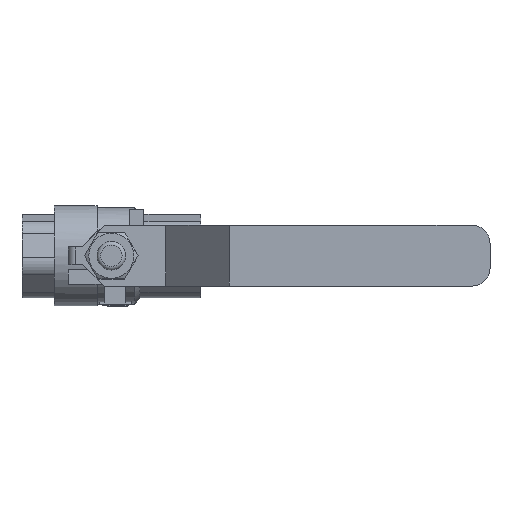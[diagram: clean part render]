
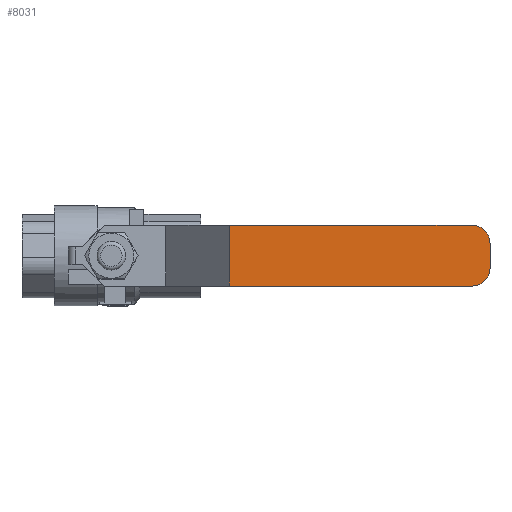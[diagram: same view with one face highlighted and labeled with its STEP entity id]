
A CAD part, top view. The second image highlights one B-rep face of the part: STEP entity #8031.
In plain terms, the highlighted planar face has unit normal (0, 0, 1).
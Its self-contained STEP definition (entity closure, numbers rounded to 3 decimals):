
#8031=ADVANCED_FACE('',(#14604),#14606,.T.);
#14604=FACE_BOUND('',#14605,.T.);
#14605=EDGE_LOOP('',(#20049,#20050,#20051,#20052,#20053,#20054));
#14606=PLANE('',#14607);
#14607=AXIS2_PLACEMENT_3D('',#14608,#14609,#14610);
#14608=CARTESIAN_POINT('',(2731.322,2563.291,31.498));
#14609=DIRECTION('',(0.,0.,1.));
#14610=DIRECTION('',(-1.,0.,0.));
#20049=ORIENTED_EDGE('',*,*,#22861,.F.);
#20050=ORIENTED_EDGE('',*,*,#22868,.T.);
#20051=ORIENTED_EDGE('',*,*,#22869,.T.);
#20052=ORIENTED_EDGE('',*,*,#22870,.F.);
#20053=ORIENTED_EDGE('',*,*,#22871,.F.);
#20054=ORIENTED_EDGE('',*,*,#22865,.T.);
#22861=EDGE_CURVE('',#27269,#27270,#27271,.T.);
#22865=EDGE_CURVE('',#27277,#27270,#27278,.T.);
#22868=EDGE_CURVE('',#27269,#27282,#27283,.T.);
#22869=EDGE_CURVE('',#27282,#27284,#27285,.T.);
#22870=EDGE_CURVE('',#27286,#27284,#27287,.T.);
#22871=EDGE_CURVE('',#27277,#27286,#27288,.T.);
#27269=VERTEX_POINT('',#37313);
#27270=VERTEX_POINT('',#37314);
#27271=CIRCLE('',#37315,5.);
#27277=VERTEX_POINT('',#37331);
#27278=LINE('',#37332,#37333);
#27282=VERTEX_POINT('',#37342);
#27283=LINE('',#37343,#37344);
#27284=VERTEX_POINT('',#37346);
#27285=LINE('',#37347,#37348);
#27286=VERTEX_POINT('',#37350);
#27287=LINE('',#37351,#37352);
#27288=CIRCLE('',#37354,5.);
#37313=CARTESIAN_POINT('',(2722.321,2563.291,31.498));
#37314=CARTESIAN_POINT('',(2727.321,2558.291,31.498));
#37315=AXIS2_PLACEMENT_3D('',#37316,#37317,#37318);
#37316=CARTESIAN_POINT('',(2722.321,2558.291,31.498));
#37317=DIRECTION('',(0.,0.,-1.));
#37318=DIRECTION('',(0.,1.,0.));
#37331=CARTESIAN_POINT('',(2727.321,2551.291,31.498));
#37332=CARTESIAN_POINT('',(2727.321,2551.291,31.498));
#37333=VECTOR('',#37334,1.);
#37334=DIRECTION('',(0.,1.,0.));
#37342=CARTESIAN_POINT('',(2654.322,2563.291,31.498));
#37343=CARTESIAN_POINT('',(2722.321,2563.291,31.498));
#37344=VECTOR('',#37345,1.);
#37345=DIRECTION('',(-1.,0.,0.));
#37346=CARTESIAN_POINT('',(2654.322,2546.291,31.498));
#37347=CARTESIAN_POINT('',(2654.322,2563.291,31.498));
#37348=VECTOR('',#37349,1.);
#37349=DIRECTION('',(0.,-1.,0.));
#37350=CARTESIAN_POINT('',(2722.321,2546.291,31.498));
#37351=CARTESIAN_POINT('',(2722.321,2546.291,31.498));
#37352=VECTOR('',#37353,1.);
#37353=DIRECTION('',(-1.,0.,0.));
#37354=AXIS2_PLACEMENT_3D('',#37355,#37356,#37357);
#37355=CARTESIAN_POINT('',(2722.321,2551.291,31.498));
#37356=DIRECTION('',(0.,0.,-1.));
#37357=DIRECTION('',(1.,0.,0.));
